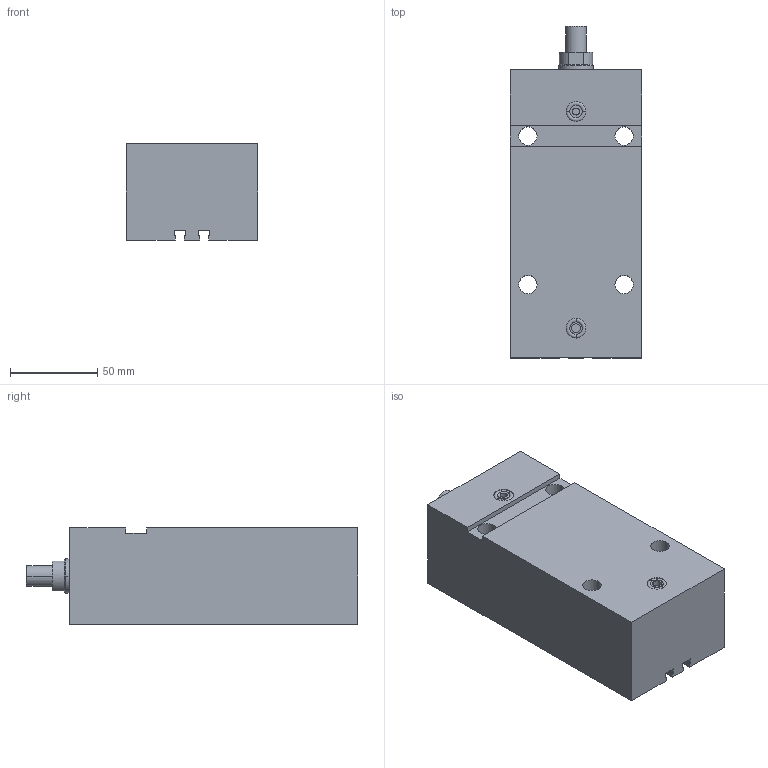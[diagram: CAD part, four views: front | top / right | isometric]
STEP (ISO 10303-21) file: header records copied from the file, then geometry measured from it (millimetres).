
FILE_DESCRIPTION (( 'STEP AP203' ), '1' );
FILE_NAME ('GERMA_Blockzylinder_704-032-100-A.STEP', '2016-07-23T08:50:00', ( '' ), ( '' ), 'SwSTEP 2.0', 'SolidWorks 2015', '' );
FILE_SCHEMA (( 'CONFIG_CONTROL_DESIGN' ));
Length unit declared in the file: millimetre
Products named in the file (3): GH-700-032_GH-704-032-100; Kolben_MT 70x-032_Kolben_MT DU.32-Hub100-AG; GERMA_Blockzylinder_704-032-100-A
Assembly tree (2 placements, depth 2):
  GERMA_Blockzylinder_704-032-100-A
    GH-700-032_GH-704-032-100
    Kolben_MT 70x-032_Kolben_MT DU.32-Hub100-AG
Bounding box: 75 x 190 x 55 mm (x, y, z)
Volume: 603689.4 mm3; surface area: 90162.3 mm2
Topology: 2 solids, 2 shells, 100 faces, 232 edges, 145 vertices
Faces by surface type: plane 43, cylinder 41, cone 12, torus 4
Entity records: 3142 total; most frequent: DIRECTION 535, CARTESIAN_POINT 478, ORIENTED_EDGE 456, EDGE_CURVE 228, AXIS2_PLACEMENT_3D 202, VERTEX_POINT 145, VECTOR 131, LINE 131
